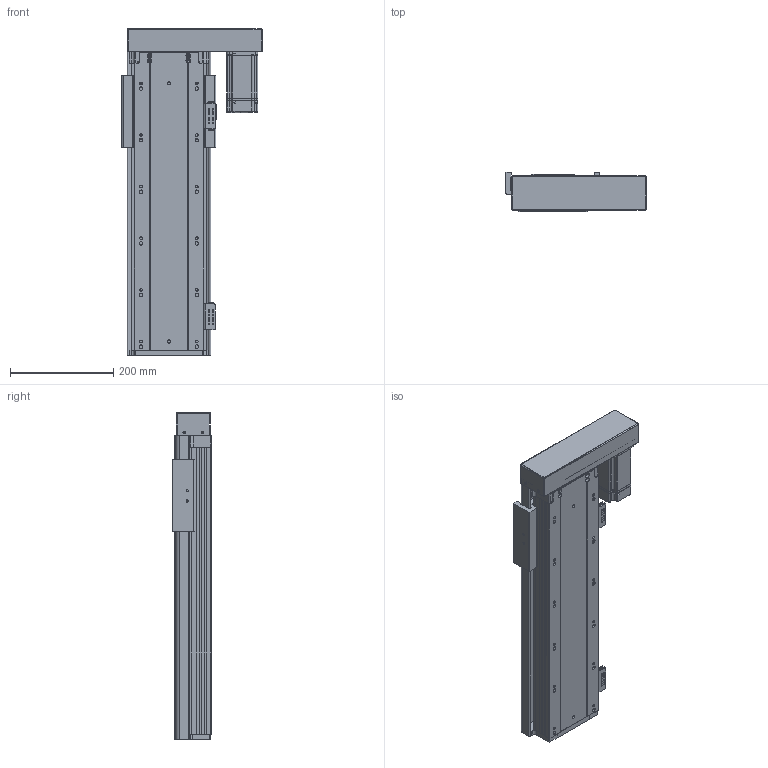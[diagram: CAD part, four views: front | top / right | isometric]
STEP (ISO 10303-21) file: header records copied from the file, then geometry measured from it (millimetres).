
FILE_DESCRIPTION (( 'STEP AP203' ), '1' );
FILE_NAME ('RY140FB-L2010-300-RK.SLDASM_350.step', '2021-02-23T02:40:49', ( '盈信电脑' ), ( '东莞市道滘镇水果街19号' ), 'SwSTEP 2.0', 'SolidWorks 2012', '' );
FILE_SCHEMA (( 'CONFIG_CONTROL_DESIGN' ));
Length unit declared in the file: millimetre
Products named in the file (17): RY140FB-左右折电机安装板; RY140FB-酘衵殏萇儂欶; RY140FB-L2010-300-RK.SLDASM_350; RY140直线电机感应器674光电安装座; RY140-674嫖萇耀輸; RY140FB-覜茼え; RY140FB-300蛌殏奻裔啣-RK_350; 覜茼ん674; RY140FB-20佪裝臏賑輸; 侂狟400W侜督萇儂; 滅袉蝶18-10; 15; RY140FB-转折电机端支撑座(7002); RY140FB-綴裔啣; 滅袉蝶18-24; RY140FB-300蛌殏倰第菁釱-RK_350
Assembly tree (20 placements, depth 3):
  RY140FB-L2010-300-RK.SLDASM_350
    RY140FB-300蛌殏倰第菁釱-RK_350
    RY140FB-綴裔啣
    滅袉蝶18-24  x2
    滅袉蝶18-10
    RY140FB-转折电机端支撑座(7002)
    侂狟400W侜督萇儂
      15
    RY140FB-20佪裝臏賑輸
    RY140FB-300蛌殏奻裔啣-RK_350
    RY140-674嫖萇耀輸
      覜茼ん674
      RY140直线电机感应器674光电安装座
    RY140-674嫖萇耀輸
      覜茼ん674  x2
      RY140直线电机感应器674光电安装座
    RY140FB-覜茼え
    RY140FB-左右折电机安装板
    RY140FB-酘衵殏萇儂欶
Bounding box: 271.3 x 75 x 633.2 mm (x, y, z)
Volume: 2999178 mm3; surface area: 966861 mm2
Topology: 17 solids, 17 shells, 1714 faces, 4663 edges, 2973 vertices
Faces by surface type: cylinder 809, plane 727, cone 150, bspline 28
Entity records: 51257 total; most frequent: CARTESIAN_POINT 10173, DIRECTION 8348, ORIENTED_EDGE 8074, EDGE_CURVE 4037, AXIS2_PLACEMENT_3D 3004, VERTEX_POINT 2641, VECTOR 2340, LINE 2340
